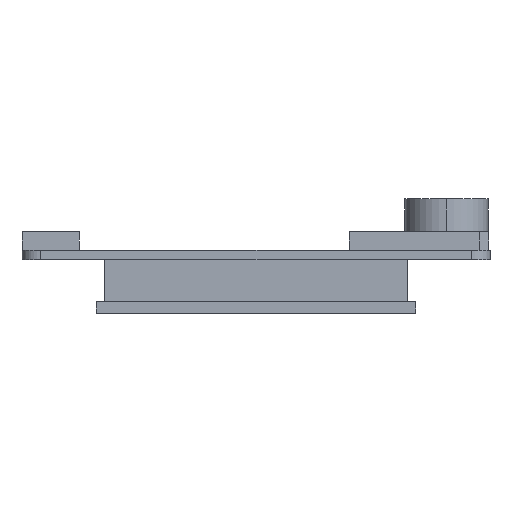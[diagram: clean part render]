
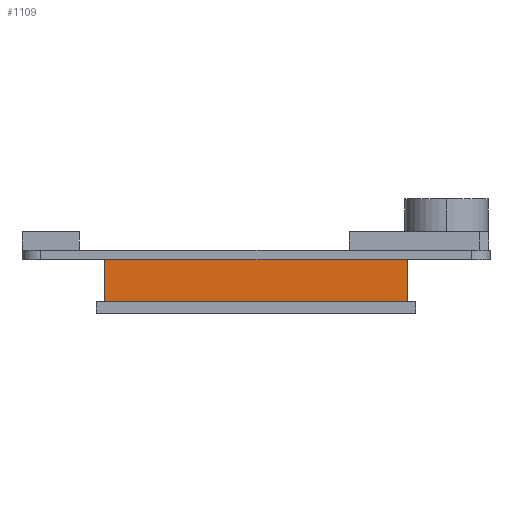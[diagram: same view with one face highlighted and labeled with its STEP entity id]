
A CAD part, left-side view. The second image highlights one B-rep face of the part: STEP entity #1109.
In plain terms, the highlighted planar face has unit normal (-1, 0, 0).
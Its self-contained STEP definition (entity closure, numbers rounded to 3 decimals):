
#255=DIRECTION('',(0.,1.,0.));
#256=VECTOR('',#255,32.42);
#257=CARTESIAN_POINT('',(-15.54,-16.46,-1.));
#258=LINE('',#257,#256);
#339=DIRECTION('',(0.,0.,1.));
#340=VECTOR('',#339,4.5);
#341=CARTESIAN_POINT('',(-15.54,15.96,-5.5));
#342=LINE('',#341,#340);
#343=DIRECTION('',(0.,1.,0.));
#344=VECTOR('',#343,32.42);
#345=CARTESIAN_POINT('',(-15.54,-16.46,-5.5));
#346=LINE('',#345,#344);
#347=DIRECTION('',(0.,0.,1.));
#348=VECTOR('',#347,4.5);
#349=CARTESIAN_POINT('',(-15.54,-16.46,-5.5));
#350=LINE('',#349,#348);
#589=CARTESIAN_POINT('',(-15.54,15.96,-1.));
#591=VERTEX_POINT('',#589);
#593=CARTESIAN_POINT('',(-15.54,-16.46,-1.));
#594=VERTEX_POINT('',#593);
#661=CARTESIAN_POINT('',(-15.54,15.96,-5.5));
#662=VERTEX_POINT('',#661);
#665=CARTESIAN_POINT('',(-15.54,-16.46,-5.5));
#666=VERTEX_POINT('',#665);
#1096=CARTESIAN_POINT('',(-15.54,-16.46,-1.));
#1097=DIRECTION('',(-1.,0.,0.));
#1098=DIRECTION('',(0.,1.,0.));
#1099=AXIS2_PLACEMENT_3D('',#1096,#1097,#1098);
#1100=PLANE('',#1099);
#1101=ORIENTED_EDGE('',*,*,#1086,.T.);
#1102=ORIENTED_EDGE('',*,*,#842,.F.);
#1104=ORIENTED_EDGE('',*,*,#1103,.F.);
#1106=ORIENTED_EDGE('',*,*,#1105,.T.);
#1107=EDGE_LOOP('',(#1101,#1102,#1104,#1106));
#1108=FACE_OUTER_BOUND('',#1107,.F.);
#842=EDGE_CURVE('',#594,#591,#258,.T.);
#1086=EDGE_CURVE('',#662,#591,#342,.T.);
#1103=EDGE_CURVE('',#666,#594,#350,.T.);
#1105=EDGE_CURVE('',#666,#662,#346,.T.);
#1109=ADVANCED_FACE('',(#1108),#1100,.T.);
